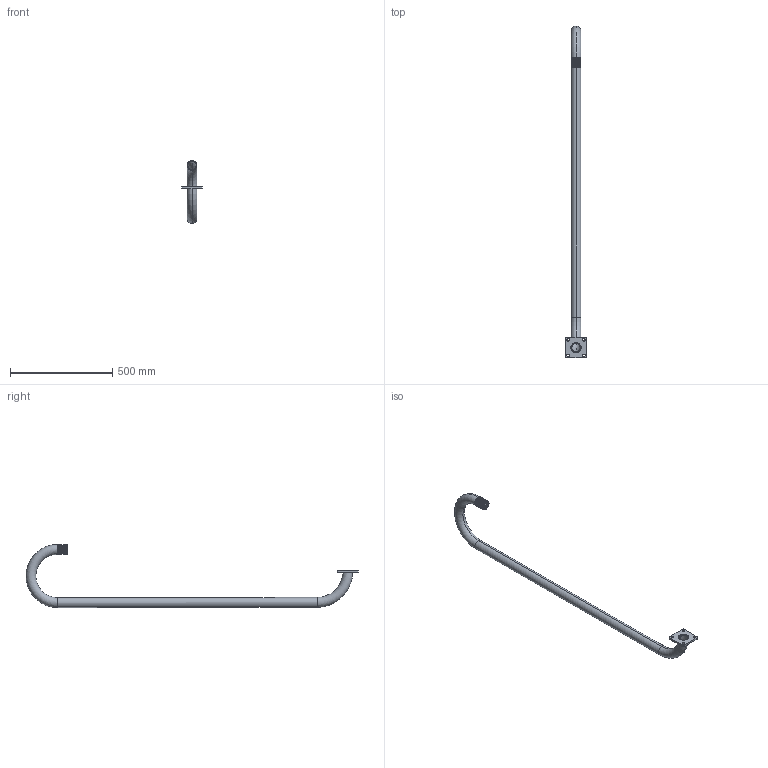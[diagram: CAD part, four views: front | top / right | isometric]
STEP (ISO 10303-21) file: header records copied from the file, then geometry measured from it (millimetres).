
FILE_DESCRIPTION (( 'STEP AP214' ), '1' );
FILE_NAME ('E00190 - OCM, ET-01 ASSY - REV A.STEP', '2019-10-07T14:20:17', ( '' ), ( '' ), 'SwSTEP 2.0', 'SolidWorks 2019', '' );
FILE_SCHEMA (( 'AUTOMOTIVE_DESIGN' ));
Length unit declared in the file: inch
Products named in the file (3): E00190 - OCM, ET-01 ASSY - REV A; E00269; E00270
Assembly tree (2 placements, depth 2):
  E00190 - OCM, ET-01 ASSY - REV A
    E00269
    E00270
Bounding box: 101.6 x 1624.44 x 308.65 mm (x, y, z)
Volume: 1076960.8 mm3; surface area: 575834.6 mm2
Topology: 2 solids, 2 shells, 70 faces, 158 edges, 92 vertices
Faces by surface type: cone 32, cylinder 22, plane 8, torus 8
Entity records: 2102 total; most frequent: DIRECTION 400, CARTESIAN_POINT 325, ORIENTED_EDGE 316, AXIS2_PLACEMENT_3D 167, EDGE_CURVE 158, VERTEX_POINT 92, CIRCLE 92, EDGE_LOOP 82
